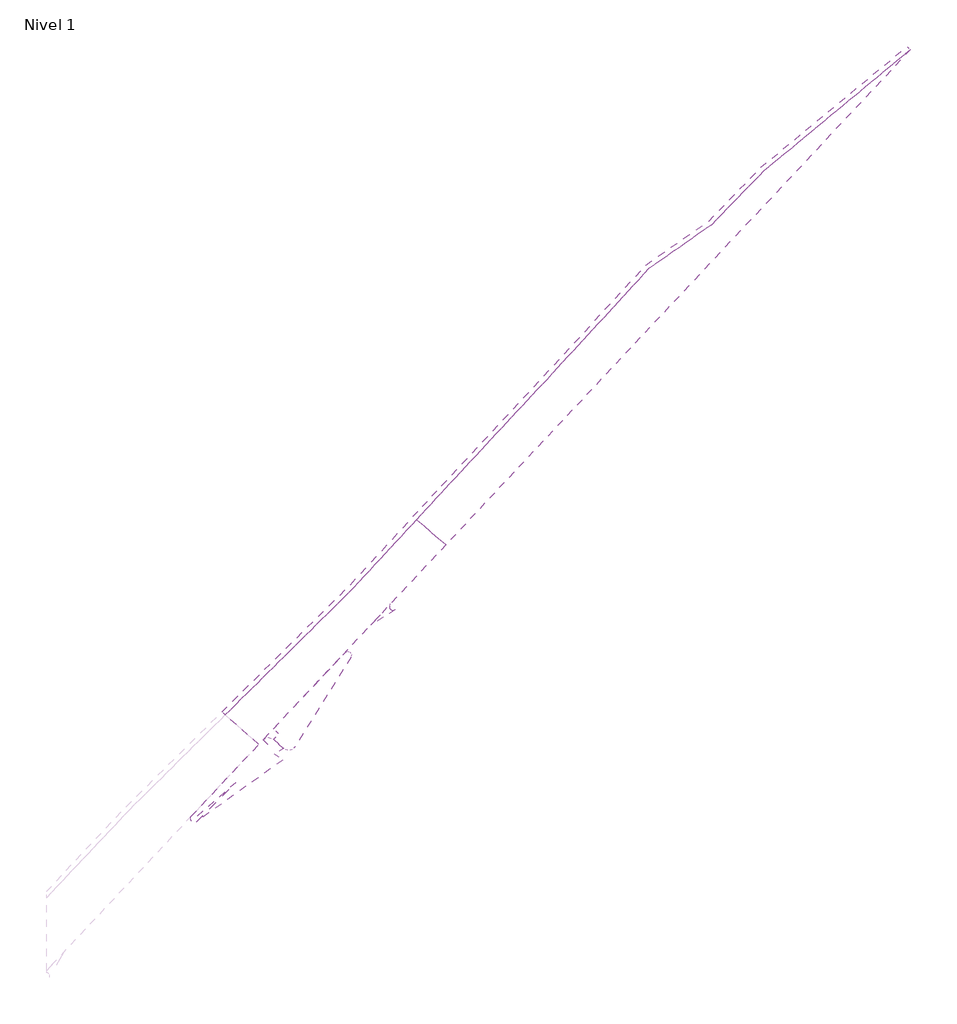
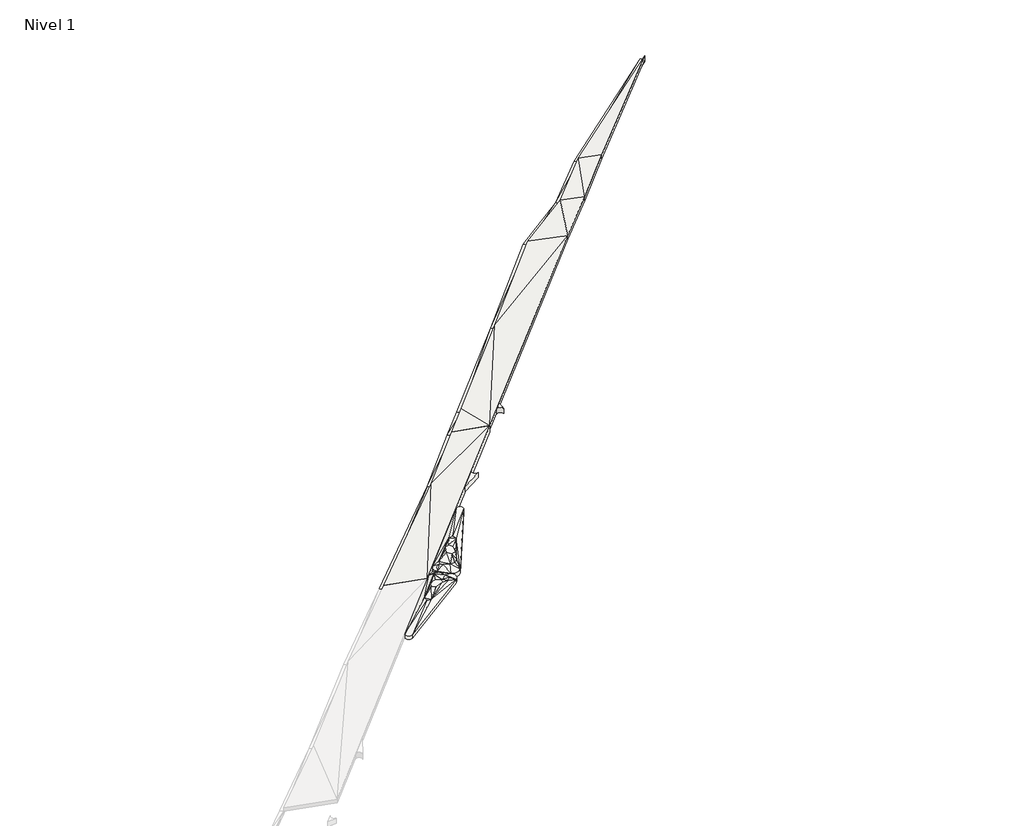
# One storey, part 43 of 45: 6 slabs.
"""IFC4 building model written with IfcOpenShell, lengths in millimetres."""

from ifc_helpers import new_model, si_unit, point, frame, frame_2d, origin, place, context, project, spatial, polyline, circle_curve, trimmed, segment, composite_curve, outline, extrude, faceted_brep, element, save
from ifc_brep_helpers import plane_surface, cylinder_surface, revolved_surface, spline_surface, advanced_brep

model = new_model("IFC4")

# Units and contexts
model_context = context("Model", 3, world=origin())
ifc_project = project(units=[si_unit("LENGTHUNIT", "METRE", prefix="MILLI")], contexts=[model_context])

# Site, building, storey
site = spatial("IfcSite", under=ifc_project)
building = spatial("IfcBuilding", under=site)
storey = spatial("IfcBuildingStorey", under=building, Name="Nivel 1", Elevation=0.0)

# Slabs
placement = place(None, origin())
element("IfcSlab", 1, ObjectType="Chilca", at=placement, inside=storey, context=model_context, shape_type="Brep", body=[
    faceted_brep([(236027.851456, 950864.0636019, 4590.5856967), (236027.851456, 950864.0636019, 4890.5856967), (237926.6891435, 952922.651975, 4882.5729338), (237926.6891435, 952922.651975, 4582.5729338), (244752.7531528, 960230.5537262, 4874.442598), (244752.7531528, 960230.5537262, 4574.442598), (251515.6988589, 967597.6969121, 4850.5252329), (251515.6988589, 967597.6969121, 4550.5252329), (255705.6082282, 970522.4880302, 4973.760169), (255705.6082282, 970522.4880302, 4673.760169), (259192.9134566, 974106.727718, 4968.7542616), (259192.9134566, 974106.727718, 4668.7542616), (268958.0332491, 982180.7629175, 5000.0), (268958.0332491, 982180.7629175, 4700.0), (260355.6429266, 973015.4157764, 5500.0000002), (260355.6429266, 973015.4157764, 5200.0000002), (256933.8467775, 969369.6907299, 5500.0000001), (256933.8467775, 969369.6907299, 5200.0000001), (253512.0506189, 965723.9656985, 5750.0), (253512.0506189, 965723.9656985, 5450.0), (237981.4109731, 949176.9713463, 5750.0), (237981.4109731, 949176.9713463, 5450.0)], [[[0, 1, 2, 3]], [[3, 2, 4, 5]], [[5, 4, 6, 7]], [[7, 6, 8, 9]], [[9, 8, 10, 11]], [[11, 10, 12, 13]], [[13, 12, 14, 15]], [[15, 14, 16, 17]], [[17, 16, 18, 19]], [[19, 18, 20, 21]], [[21, 20, 1, 0]], [[20, 18, 4]], [[21, 5, 19]], [[14, 12, 10]], [[16, 14, 10]], [[15, 11, 13]], [[17, 11, 15]], [[18, 16, 8]], [[16, 10, 8]], [[19, 9, 17]], [[17, 9, 11]], [[20, 4, 2]], [[18, 6, 4]], [[18, 8, 6]], [[21, 3, 5]], [[19, 5, 7]], [[19, 7, 9]], [[20, 2, 1]], [[21, 0, 3]]]),
])
element("IfcSlab", 2, ObjectType="Lippia", at=placement, inside=storey, context=model_context, shape_type="AdvancedBrep", body=[
    advanced_brep(
    [(226499.2646817, 936217.5484372, 5450.0), (226499.2646817, 936217.5484372, 5750.0), (227150.6454743, 935606.1962588, 5750.0), (227150.6454743, 935606.1962588, 5450.0), (227097.5478843, 934833.6531865, 5750.0), (227097.5478843, 934833.6531865, 5450.0), (221348.7986534, 930732.3710437, 5750.0), (221348.7986534, 930732.3710437, 5450.0), (221022.1841735, 931107.9003697, 5450.0), (221022.1841735, 931107.9003697, 5750.0), (225796.1759498, 936194.3112815, 5750.0), (225796.1759498, 936194.3112815, 5450.0), (226544.2708475, 935264.3344517, 6050.0), (226316.8446205, 935710.2652685, 6050.0), (226544.2708475, 935264.3344517, 5750.0), (226316.8446205, 935710.2652685, 5750.0), (225202.7877479, 934184.2306473, 6250.0), (225481.8985029, 934261.991924, 6250.0), (225761.009258, 934339.7532006, 6250.0), (225922.0678081, 934682.7788846, 6250.0), (225533.5750055, 934908.3880039, 6250.0), (225276.1440757, 934777.4245535, 6250.0), (225063.5377765, 934669.2648441, 6250.0), (224901.5272601, 934332.0266686, 6250.0), (225202.7877479, 934184.2306473, 5950.0), (224901.5272601, 934332.0266686, 5950.0), (225063.5377765, 934669.2648441, 5950.0), (225276.1440757, 934777.4245535, 5950.0), (225533.5750055, 934908.3880039, 5950.0), (225922.0678081, 934682.7788846, 5950.0), (225761.009258, 934339.7532006, 5950.0), (225481.8985029, 934261.991924, 5950.0), (225909.5963583, 935765.3249259, 6050.0), (226127.6360335, 935844.4195393, 6050.0), (225909.5963583, 935765.3249259, 5750.0), (226127.6360335, 935844.4195393, 5750.0), (226583.8035085, 934903.0382786, 6050.0), (226583.8035085, 934903.0382786, 5750.0), (226368.224206, 934610.423651, 6050.0), (224286.164711, 933280.7697764, 6050.0), (224286.164711, 933280.7697764, 5750.0), (226368.224206, 934610.423651, 5750.0), (223967.8886985, 933661.0207014, 6050.0), (223967.8886985, 933661.0207014, 5750.0), (223959.9064652, 933330.9989927, 6050.0), (223959.9064652, 933330.9989927, 5750.0)],
    [
        (0, 1),
        (1, 2),
        (2, 3),
        (3, 0),
        (2, 4, circle_curve(frame((226808.4692443, 935241.6158553, 5750.0), z_axis=(0.0, 0.0, -1.0), x_axis=(0.7868922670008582, -0.617090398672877, 0.0)), 499.9999992)),
        (4, 5),
        (5, 3, circle_curve(frame((226808.4692443, 935241.6158553, 5450.0), z_axis=(0.0, 0.0, 1.0), x_axis=(0.7868922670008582, -0.617090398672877, 0.0)), 499.9999992)),
        (4, 6),
        (6, 7),
        (7, 5),
        (8, 9),
        (9, 10),
        (10, 11),
        (11, 8),
        (10, 1, circle_curve(frame((226159.4586305, 935850.7626036, 5750.0), z_axis=(0.0, 0.0, -1.0), x_axis=(0.7868922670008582, -0.617090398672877, 0.0)), 500.0000001)),
        (0, 11, circle_curve(frame((226159.4586305, 935850.7626036, 5450.0), z_axis=(0.0, 0.0, 1.0), x_axis=(0.7868922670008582, -0.617090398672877, 0.0)), 500.0000001)),
        (2, 12),
        (12, 4),
        (1, 13),
        (13, 2),
        (5, 14),
        (14, 3),
        (3, 15),
        (15, 0),
        (16, 17),
        (17, 18),
        (18, 19),
        (19, 20),
        (20, 21),
        (21, 22),
        (22, 23),
        (23, 16),
        (24, 25),
        (25, 26),
        (26, 27),
        (27, 28),
        (28, 29),
        (29, 30),
        (30, 31),
        (31, 24),
        (20, 32),
        (32, 22),
        (10, 32),
        (32, 33),
        (33, 10),
        (19, 32),
        (26, 34),
        (34, 28),
        (11, 35),
        (35, 34),
        (34, 11),
        (34, 29),
        (32, 12),
        (12, 13),
        (13, 33),
        (19, 12),
        (12, 36),
        (36, 4),
        (35, 15),
        (15, 14),
        (14, 34),
        (14, 29),
        (5, 37),
        (37, 14),
        (4, 38),
        (38, 39),
        (39, 4),
        (19, 38),
        (38, 36),
        (36, 19),
        (5, 40),
        (40, 41),
        (41, 5),
        (29, 37),
        (37, 41),
        (41, 29),
        (22, 42),
        (42, 23),
        (23, 39),
        (39, 16),
        (39, 18),
        (25, 43),
        (43, 26),
        (24, 40),
        (40, 25),
        (30, 40),
        (42, 39),
        (40, 43),
        (1, 33),
        (35, 0),
        (10, 42),
        (42, 32),
        (42, 44),
        (44, 39),
        (18, 38),
        (34, 43),
        (43, 11),
        (40, 45),
        (45, 43),
        (41, 30),
        (6, 9, circle_curve(frame((221203.6030465, 930935.8910904, 5750.0), z_axis=(0.0, 0.0, -1.0), x_axis=(0.7868922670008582, -0.617090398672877, 0.0)), 249.9999994)),
        (8, 7, circle_curve(frame((221203.6030465, 930935.8910904, 5450.0), z_axis=(0.0, 0.0, 1.0), x_axis=(0.7868922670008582, -0.617090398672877, 0.0)), 249.9999994)),
        (9, 42),
        (9, 44),
        (6, 44),
        (6, 39),
        (43, 8),
        (45, 8),
        (45, 7),
        (40, 7),
    ],
    [
        plane_surface(frame((226499.2646817, 936217.5484372, 5450.0), z_axis=(0.6843477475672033, 0.7291557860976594, 0.0), x_axis=(0.0, 0.0, 1.0))),
        cylinder_surface(frame((226808.4692443, 935241.6158553, 5750.0), z_axis=(0.0, 0.0, -1.0000000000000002), x_axis=(0.7868922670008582, -0.617090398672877, 0.0)), 499.9999992),
        plane_surface(frame((227097.5478843, 934833.6531865, 5450.0), z_axis=(0.5807723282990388, -0.8140660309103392, 0.0), x_axis=(0.0, 0.0, 1.0))),
        plane_surface(frame((221022.1841735, 931107.9003697, 5450.0), z_axis=(-0.7291450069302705, 0.6843592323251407, 0.0), x_axis=(0.0, 0.0, 1.0))),
        cylinder_surface(frame((226159.4586305, 935850.7626036, 5750.0), z_axis=(0.0, 0.0, -1.0000000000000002), x_axis=(0.7868922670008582, -0.617090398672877, 0.0)), 500.0000001),
        spline_surface(2, 1, [[(227097.5478843, 934833.6531865, 5750.0), (226544.2708475, 935264.3344517, 6050.0)], [(227291.03299010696, 934970.754974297, 5750.0), (226544.2708475, 935264.3344517, 6050.0)], [(227307.29252321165, 935207.3326866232, 5750.0), (226544.2708475, 935264.3344517, 6050.0)], [(227323.552056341, 935443.9103989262, 5750.0), (226544.2708475, 935264.3344517, 6050.0)], [(227150.6431176, 935606.1937477, 5750.0), (226544.2708475, 935264.3344517, 6050.0)]], [3, 2, 3], [2, 2], [0.0, 1.0, 2.0], [0.0, 1.0], weights=[[1.0, 1.0], [0.9035324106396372, 0.9035324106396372], [1.0, 1.0], [0.9035324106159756, 0.9035324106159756], [1.0, 1.0]]),
        plane_surface(frame((226655.5849255, 935844.6699881, 5850.0), z_axis=(0.35484161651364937, 0.3780750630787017, 0.8550711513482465), x_axis=(-0.7291557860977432, 0.6843477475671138, 0.0))),
        spline_surface(1, 2, [[(227097.5478843, 934833.6531865, 5450.0), (227291.03299010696, 934970.754974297, 5450.0), (227307.29252321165, 935207.3326866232, 5450.0), (227323.552056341, 935443.9103989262, 5450.0), (227150.6431176, 935606.1937477, 5450.0)], [(226544.2708475, 935264.3344517, 5750.0), (226544.2708475, 935264.3344517, 5750.0), (226544.2708475, 935264.3344517, 5750.0), (226544.2708475, 935264.3344517, 5750.0), (226544.2708475, 935264.3344517, 5750.0)]], [2, 2], [3, 2, 3], [0.0, 1.0], [0.0, 1.0, 2.0], weights=[[1.0, 0.9035324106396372, 1.0, 0.9035324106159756, 1.0], [1.0, 0.9035324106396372, 1.0, 0.9035324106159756, 1.0]]),
        plane_surface(frame((226655.5849255, 935844.6699881, 5550.0), z_axis=(-0.35484161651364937, -0.3780750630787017, -0.8550711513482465), x_axis=(-0.7291557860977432, 0.6843477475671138, 0.0))),
        plane_surface(frame((225397.417476, 934519.4070415, 6250.0), z_axis=(0.0, 0.0, 1.0), x_axis=(0.9633124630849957, 0.26838237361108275, 0.0))),
        plane_surface(frame((225397.417476, 934519.4070415, 5950.0), z_axis=(0.0, 0.0, -1.0), x_axis=(0.9633124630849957, 0.26838237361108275, 0.0))),
        plane_surface(frame((225502.2363801, 935114.3259247, 6183.3333333), z_axis=(-0.1448456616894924, 0.2847187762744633, 0.9476048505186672), x_axis=(0.8912922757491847, 0.4534292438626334, 0.0))),
        plane_surface(frame((225944.4694472, 935934.6852489, 5950.0), z_axis=(-0.19152344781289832, 0.5279716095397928, 0.8273842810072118), x_axis=(0.2117536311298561, -0.8009089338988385, 0.5600939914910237))),
        plane_surface(frame((225788.4130573, 935118.8306048, 6183.3333333), z_axis=(0.105597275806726, 0.18183565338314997, 0.9776425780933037), x_axis=(-0.011328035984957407, 0.9832955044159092, -0.18166349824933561))),
        plane_surface(frame((225502.2363801, 935114.3259247, 5883.3333333), z_axis=(0.1448456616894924, -0.2847187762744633, -0.9476048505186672), x_axis=(0.8912922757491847, 0.4534292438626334, 0.0))),
        plane_surface(frame((225944.4694472, 935934.6852489, 5650.0), z_axis=(0.19152344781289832, -0.5279716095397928, -0.8273842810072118), x_axis=(0.2117536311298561, -0.8009089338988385, 0.5600939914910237))),
        plane_surface(frame((225788.4130573, 935118.8306048, 5883.3333333), z_axis=(-0.105597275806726, -0.18183565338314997, -0.9776425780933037), x_axis=(-0.011328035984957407, 0.9832955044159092, -0.18166349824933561))),
        plane_surface(frame((226224.586965, 935646.0860463, 6050.0), z_axis=(0.0, 0.0, 1.0), x_axis=(0.7849238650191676, -0.6195922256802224, 0.0))),
        plane_surface(frame((226125.3116713, 935237.4794207, 6116.6666667), z_axis=(0.14318939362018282, 0.18139797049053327, 0.9729293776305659), x_axis=(0.7112199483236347, 0.6647571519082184, -0.22861346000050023))),
        plane_surface(frame((226741.8740801, 935000.3419723, 5950.0), z_axis=(0.5090835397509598, 0.05570340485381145, 0.8589127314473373), x_axis=(-0.725487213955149, 0.564732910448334, 0.3933764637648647))),
        plane_surface(frame((226670.5869808, 935526.931993, 5950.0), z_axis=(0.35283343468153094, 0.17994624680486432, 0.918219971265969), x_axis=(-0.9345251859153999, 0.11664069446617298, 0.3362404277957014))),
        plane_surface(frame((226224.586965, 935646.0860463, 5750.0), z_axis=(0.0, 0.0, -1.0), x_axis=(0.7849238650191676, -0.6195922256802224, 0.0))),
        plane_surface(frame((226125.3116713, 935237.4794207, 5816.6666667), z_axis=(-0.14318939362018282, -0.18139797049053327, -0.9729293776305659), x_axis=(0.7112199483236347, 0.6647571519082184, -0.22861346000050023))),
        plane_surface(frame((226741.8740801, 935000.3419723, 5650.0), z_axis=(-0.5090835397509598, -0.05570340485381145, -0.8589127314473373), x_axis=(-0.725487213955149, 0.564732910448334, 0.3933764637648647))),
        plane_surface(frame((226670.5869808, 935526.931993, 5650.0), z_axis=(-0.35283343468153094, -0.17994624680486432, -0.918219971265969), x_axis=(-0.9345251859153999, 0.11664069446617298, 0.3362404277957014))),
        plane_surface(frame((225917.3122671, 934241.615538, 5950.0), z_axis=(0.4447964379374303, -0.6964915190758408, 0.5630769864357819), x_axis=(-0.8898530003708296, -0.27236394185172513, 0.36603213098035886))),
        plane_surface(frame((226291.3651742, 934732.0802714, 6116.6666667), z_axis=(0.3585321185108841, -0.26414299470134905, 0.8953676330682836), x_axis=(0.9026794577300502, -0.1463916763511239, -0.4046470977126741))),
        plane_surface(frame((225917.3122671, 934241.615538, 5650.0), z_axis=(-0.4447964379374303, 0.6964915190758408, -0.5630769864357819), x_axis=(-0.8898530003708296, -0.27236394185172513, 0.36603213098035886))),
        plane_surface(frame((226291.3651742, 934732.0802714, 5816.6666667), z_axis=(-0.3585321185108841, 0.26414299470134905, -0.8953676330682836), x_axis=(0.9026794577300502, -0.1463916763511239, -0.4046470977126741))),
        plane_surface(frame((224644.3179117, 934220.770738, 6183.3333333), z_axis=(-0.30754657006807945, 0.1477465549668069, 0.9399925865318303), x_axis=(0.433026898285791, 0.9013809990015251, 0.0))),
        plane_surface(frame((224796.826573, 933932.3423641, 6183.3333333), z_axis=(-0.07154805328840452, -0.14584020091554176, 0.9867175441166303), x_axis=(-0.8977801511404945, 0.44044386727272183, 0.0))),
        plane_surface(frame((225083.3205723, 933934.9178748, 6183.3333333), z_axis=(0.08187846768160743, -0.2938887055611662, 0.9523262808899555), x_axis=(-0.7037551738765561, -0.6936496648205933, -0.15355389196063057))),
        plane_surface(frame((224644.3179117, 934220.770738, 5883.3333333), z_axis=(0.30754657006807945, -0.1477465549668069, -0.9399925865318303), x_axis=(0.433026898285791, 0.9013809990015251, 0.0))),
        plane_surface(frame((224796.826573, 933932.3423641, 5883.3333333), z_axis=(0.07154805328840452, 0.14584020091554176, -0.9867175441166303), x_axis=(-0.8977801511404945, 0.44044386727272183, 0.0))),
        plane_surface(frame((225083.3205723, 933934.9178748, 5883.3333333), z_axis=(-0.08187846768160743, 0.2938887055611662, -0.9523262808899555), x_axis=(-0.7037551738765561, -0.6936496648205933, -0.15355389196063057))),
        plane_surface(frame((224385.1935565, 933757.9390488, 6116.6666667), z_axis=(-0.13176473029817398, -0.11028915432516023, 0.9851265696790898), x_axis=(-0.8000210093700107, -0.574975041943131, -0.17137702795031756))),
        plane_surface(frame((224385.1935565, 933757.9390488, 5816.6666667), z_axis=(0.13176473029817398, 0.11028915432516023, -0.9851265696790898), x_axis=(-0.8000210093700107, -0.574975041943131, -0.17137702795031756))),
        plane_surface(frame((226314.5817786, 935924.0777483, 5950.0), z_axis=(0.28931629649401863, 0.40804610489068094, 0.865906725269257), x_axis=(-0.6131675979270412, -0.6156429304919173, 0.4949841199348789))),
        spline_surface(2, 1, [[(226499.2646817, 936217.5484372, 5750.0), (226127.6360335, 935844.4195393, 6050.0)], [(226136.22025339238, 936553.8882908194, 5750.0), (226127.6360335, 935844.4195393, 6050.0)], [(225796.1759498, 936194.3112815, 5750.0), (226127.6360335, 935844.4195393, 6050.0)]], [3, 3], [2, 2], [0.0, 1.0], [0.0, 1.0], weights=[[1.0, 1.0], [0.7107223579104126, 0.7107223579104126], [1.0, 1.0]]),
        plane_surface(frame((226314.5817786, 935924.0777483, 5650.0), z_axis=(-0.28931629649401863, -0.40804610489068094, -0.865906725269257), x_axis=(-0.6131675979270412, -0.6156429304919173, 0.4949841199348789))),
        spline_surface(1, 2, [[(226499.2646817, 936217.5484372, 5450.0), (226136.22025339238, 936553.8882908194, 5450.0), (225796.1759498, 936194.3112815, 5450.0)], [(226127.6360335, 935844.4195393, 5750.0), (226127.6360335, 935844.4195393, 5750.0), (226127.6360335, 935844.4195393, 5750.0)]], [2, 2], [3, 3], [0.0, 1.0], [0.0, 1.0], weights=[[1.0, 0.7107223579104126, 1.0], [1.0, 0.7107223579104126, 1.0]]),
        plane_surface(frame((226350.0473881, 934950.0505383, 6116.6666667), z_axis=(0.27982285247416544, 0.0306179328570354, 0.9595632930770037), x_axis=(0.912059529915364, 0.3035799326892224, -0.2756567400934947))),
        plane_surface(frame((226350.0473881, 934950.0505383, 5816.6666667), z_axis=(-0.27982285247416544, -0.0306179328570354, -0.9595632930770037), x_axis=(0.912059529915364, 0.3035799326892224, -0.2756567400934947))),
        plane_surface(frame((225224.5536689, 935206.8856363, 5950.0), z_axis=(-0.45965240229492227, 0.4241357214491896, 0.7802746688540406), x_axis=(-0.5825349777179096, -0.8071654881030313, 0.09558699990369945))),
        plane_surface(frame((224071.3199582, 933424.2631568, 6050.0), z_axis=(0.0, 0.0, 1.0), x_axis=(-0.6418493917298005, 0.766830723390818, 0.0))),
        plane_surface(frame((226017.1004241, 934544.3185787, 6183.3333333), z_axis=(0.37840949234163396, -0.177672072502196, 0.9084266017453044), x_axis=(-0.4250076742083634, -0.9051897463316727, 0.0))),
        plane_surface(frame((226683.1918663, 934782.3717054, 5950.0), z_axis=(0.44332933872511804, -0.3266160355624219, 0.8347341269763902), x_axis=(-0.8577339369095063, 0.1158435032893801, 0.5008720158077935))),
        plane_surface(frame((225224.5536689, 935206.8856363, 5650.0), z_axis=(0.45965240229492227, -0.4241357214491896, -0.7802746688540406), x_axis=(-0.5825349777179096, -0.8071654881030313, 0.09558699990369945))),
        plane_surface(frame((224071.3199582, 933424.2631568, 5750.0), z_axis=(0.0, 0.0, -1.0), x_axis=(-0.6418493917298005, 0.766830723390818, 0.0))),
        plane_surface(frame((226017.1004241, 934544.3185787, 5883.3333333), z_axis=(-0.37840949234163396, 0.177672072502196, -0.9084266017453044), x_axis=(-0.4250076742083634, -0.9051897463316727, 0.0))),
        plane_surface(frame((226683.1918663, 934782.3717054, 5650.0), z_axis=(-0.44332933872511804, 0.3266160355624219, -0.8347341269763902), x_axis=(-0.8577339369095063, 0.1158435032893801, 0.5008720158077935))),
        plane_surface(frame((224980.3409444, 934698.5368238, 6116.6666667), z_axis=(-0.6281210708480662, 0.5795870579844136, 0.5191750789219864), x_axis=(0.6047654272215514, 0.783467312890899, -0.14296065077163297))),
        plane_surface(frame((224980.3409444, 934698.5368238, 5816.6666667), z_axis=(0.6281210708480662, -0.5795870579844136, -0.5191750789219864), x_axis=(0.6047654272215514, 0.783467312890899, -0.14296065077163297))),
        plane_surface(frame((225471.7993917, 934076.9822093, 6116.6666667), z_axis=(0.4826552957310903, -0.7557734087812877, 0.44254990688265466), x_axis=(-0.8074086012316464, -0.5797440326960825, -0.10949067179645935))),
        plane_surface(frame((225471.7993917, 934076.9822093, 5816.6666667), z_axis=(-0.4826552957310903, 0.7557734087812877, -0.44254990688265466), x_axis=(-0.8074086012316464, -0.5797440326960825, -0.10949067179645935))),
        cylinder_surface(frame((221203.6030465, 930935.8910904, 5750.0), z_axis=(0.0, 0.0, -1.0000000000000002), x_axis=(0.7868922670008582, -0.617090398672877, 0.0)), 249.9999994),
        plane_surface(frame((223595.4162739, 933654.4107842, 5850.0), z_axis=(-0.4370713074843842, 0.41022537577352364, 0.800427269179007), x_axis=(-0.6843592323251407, -0.7291450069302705, 0.0))),
        plane_surface(frame((222983.3264457, 932699.9733546, 5950.0), z_axis=(-0.10346529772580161, 0.002502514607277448, 0.9946299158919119), x_axis=(-0.7534387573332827, -0.6530253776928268, -0.0767326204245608))),
        spline_surface(2, 1, [[(221022.1841735, 931107.9003697, 5750.0), (223959.9064652, 933330.9989927, 6050.0)], [(220865.96959503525, 930943.140230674, 5750.0), (223959.9064652, 933330.9989927, 6050.0)], [(221014.96852934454, 930771.8270218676, 5750.0), (223959.9064652, 933330.9989927, 6050.0)], [(221163.9674636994, 930600.5138130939, 5750.0), (223959.9064652, 933330.9989927, 6050.0)], [(221348.7961282, 930732.3745832, 5750.0), (223959.9064652, 933330.9989927, 6050.0)]], [3, 2, 3], [2, 2], [0.0, 1.0, 2.0], [0.0, 1.0], weights=[[1.0, 1.0], [0.7402773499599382, 0.7402773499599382], [1.0, 1.0], [0.7402773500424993, 0.7402773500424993], [1.0, 1.0]]),
        plane_surface(frame((223198.2899432, 932448.0466043, 5950.0), z_axis=(-0.015314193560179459, -0.09947162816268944, 0.9949225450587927), x_axis=(-0.9883554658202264, 0.1521626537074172, 0.0))),
        plane_surface(frame((224244.1704162, 932948.9313355, 5850.0), z_axis=(0.3665935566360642, -0.5138525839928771, 0.775606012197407), x_axis=(-0.8715499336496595, -0.48140553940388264, 0.09300225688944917))),
        plane_surface(frame((223595.4162739, 933654.4107842, 5550.0), z_axis=(0.4370713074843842, -0.41022537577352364, -0.800427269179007), x_axis=(-0.6843592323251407, -0.7291450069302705, 0.0))),
        plane_surface(frame((222983.3264457, 932699.9733546, 5650.0), z_axis=(0.10346529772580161, -0.002502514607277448, -0.9946299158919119), x_axis=(-0.7534387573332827, -0.6530253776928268, -0.0767326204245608))),
        spline_surface(1, 2, [[(221022.1841735, 931107.9003697, 5450.0), (220865.96959503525, 930943.140230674, 5450.0), (221014.96852934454, 930771.8270218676, 5450.0), (221163.9674636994, 930600.5138130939, 5450.0), (221348.7961282, 930732.3745832, 5450.0)], [(223959.9064652, 933330.9989927, 5750.0), (223959.9064652, 933330.9989927, 5750.0), (223959.9064652, 933330.9989927, 5750.0), (223959.9064652, 933330.9989927, 5750.0), (223959.9064652, 933330.9989927, 5750.0)]], [2, 2], [3, 2, 3], [0.0, 1.0], [0.0, 1.0, 2.0], weights=[[1.0, 0.7402773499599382, 1.0, 0.7402773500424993, 1.0], [1.0, 0.7402773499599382, 1.0, 0.7402773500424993, 1.0]]),
        plane_surface(frame((223198.2899432, 932448.0466043, 5650.0), z_axis=(0.015314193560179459, 0.09947162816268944, -0.9949225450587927), x_axis=(-0.9883554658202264, 0.1521626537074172, 0.0))),
        plane_surface(frame((224244.1704162, 932948.9313355, 5550.0), z_axis=(-0.3665935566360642, 0.5138525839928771, -0.775606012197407), x_axis=(-0.8715499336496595, -0.48140553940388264, 0.09300225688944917))),
    ],
    [
        (0, [[1, 2, 3, 4]]),
        (1, [[-3, 5, 6, 7]]),
        (2, [[-6, 8, 9, 10]]),
        (3, [[11, 12, 13, 14]]),
        (4, [[-13, 15, -1, 16]]),
        (5, [[-5, 17, 18]]),
        (6, [[-2, 19, 20]]),
        (7, [[21, 22, -7]]),
        (8, [[23, 24, -4]]),
        (9, [[25, 26, 27, 28, 29, 30, 31, 32]]),
        (10, [[33, 34, 35, 36, 37, 38, 39, 40]]),
        (11, [[-29, 41, 42, -30]]),
        (12, [[43, 44, 45]]),
        (13, [[46, -41, -28]]),
        (14, [[-35, 47, 48, -36]]),
        (15, [[49, 50, 51]]),
        (16, [[-37, -48, 52]]),
        (17, [[53, 54, 55, -44]]),
        (18, [[56, -53, -46]]),
        (19, [[-18, 57, 58]]),
        (20, [[-20, -54, -17]]),
        (21, [[-50, 59, 60, 61]]),
        (22, [[-52, -61, 62]]),
        (23, [[63, 64, -21]]),
        (24, [[-22, -60, -23]]),
        (25, [[65, 66, 67]]),
        (26, [[68, 69, 70]]),
        (27, [[71, 72, 73]]),
        (28, [[74, 75, 76]]),
        (29, [[-31, 77, 78]]),
        (30, [[-32, 79, 80]]),
        (31, [[-80, 81, -26, -25]]),
        (32, [[82, 83, -34]]),
        (33, [[84, 85, -33]]),
        (34, [[-40, -39, 86, -84]]),
        (35, [[-78, 87, -79]]),
        (36, [[-85, 88, -82]]),
        (37, [[89, -55, -19]]),
        (38, [[-45, -89, -15]]),
        (39, [[-24, -59, 90]]),
        (40, [[-16, -90, -49]]),
        (41, [[-70, -57, -56]]),
        (42, [[-62, -64, -74]]),
        (43, [[91, 92, -43]]),
        (44, [[-87, 93, 94]]),
        (45, [[-27, 95, -68]]),
        (46, [[-58, -69, -65]]),
        (47, [[-51, 96, 97]]),
        (48, [[98, 99, -88]]),
        (49, [[-76, 100, -38]]),
        (50, [[-73, -75, -63]]),
        (51, [[-42, -92, -77]]),
        (52, [[-83, -96, -47]]),
        (53, [[-81, -66, -95]]),
        (54, [[-100, -72, -86]]),
        (55, [[-9, 101, -11, 102]]),
        (56, [[-12, 103, -91]]),
        (57, [[-103, 104, -93]]),
        (58, [[-104, -101, 105]]),
        (59, [[-94, -105, 106]]),
        (60, [[-67, -106, -8]]),
        (61, [[-97, 107, -14]]),
        (62, [[-99, 108, -107]]),
        (63, [[109, -102, -108]]),
        (64, [[110, -109, -98]]),
        (65, [[-10, -110, -71]]),
    ],
),
])
element("IfcSlab", 3, ObjectType="Lippia", at=placement, inside=storey, context=model_context, shape_type="AdvancedBrep", body=[
    advanced_brep(
    [(227167.6368579, 935590.2275249, 5450.0), (227167.6368579, 935590.2275249, 5750.0), (226499.7198912, 936217.9471328, 5750.0), (226499.7198912, 936217.9471328, 5450.0), (227932.27228, 935733.6151084, 5450.0), (227932.27228, 935733.6151084, 5750.0), (231643.7956828, 941691.7261323, 5450.0), (231643.7956828, 941691.7261323, 5750.0), (226478.8533642, 936921.1102137, 5450.0), (226478.8533642, 936921.1102137, 5750.0), (231272.1261457, 942016.4273541, 5750.0), (231272.1261457, 942016.4273541, 5450.0), (228327.5630327, 937072.4209308, 6250.0), (228447.7998142, 937639.2909647, 6250.0), (228271.2433603, 937921.653851, 6250.0), (227964.6191377, 937782.9141181, 6250.0), (227860.3684716, 937528.9071848, 6250.0), (227732.5060876, 937244.796013, 6250.0), (227995.3039893, 936890.1837104, 6250.0), (227449.0145402, 936221.4369263, 6050.0), (226985.4008877, 936422.2200744, 6050.0), (228327.5630327, 937072.4209308, 5950.0), (227995.3039893, 936890.1837104, 5950.0), (227732.5060876, 937244.796013, 5950.0), (227860.3684716, 937528.9071848, 5950.0), (227964.6191377, 937782.9141181, 5950.0), (228271.2433603, 937921.653851, 5950.0), (228447.7998142, 937639.2909647, 5950.0), (227449.0145402, 936221.4369263, 5750.0), (226985.4008877, 936422.2200744, 5750.0), (229282.305938, 938601.7467268, 6050.0), (228882.7874489, 938895.4726611, 6050.0), (229282.305938, 938601.7467268, 5750.0), (228882.7874489, 938895.4726611, 5750.0), (226903.99952, 936824.3445011, 6050.0), (226844.4914411, 936580.0694582, 6050.0), (226903.99952, 936824.3445011, 5750.0), (226844.4914411, 936580.0694582, 5750.0), (227809.4998353, 936207.152243, 6050.0), (227809.4998353, 936207.152243, 5750.0), (228085.7609454, 936439.1727144, 6050.0), (228085.7609454, 936439.1727144, 5750.0), (229211.6471621, 938924.1978931, 6050.0), (229211.6471621, 938924.1978931, 5750.0)],
    [
        (0, 1),
        (1, 2),
        (2, 3),
        (3, 0),
        (4, 5),
        (5, 1, circle_curve(frame((227492.0522674, 935970.6938737, 5750.0), z_axis=(0.0, 0.0, -1.0), x_axis=(0.9660919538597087, 0.25819825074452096, 0.0)), 500.0000005)),
        (0, 4, circle_curve(frame((227492.0522674, 935970.6938737, 5450.0), z_axis=(0.0, 0.0, 1.0), x_axis=(0.9660919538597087, 0.25819825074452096, 0.0)), 500.0000005)),
        (6, 7),
        (7, 5),
        (4, 6),
        (8, 9),
        (9, 10),
        (10, 11),
        (11, 8),
        (2, 9, circle_curve(frame((226844.4914411, 936580.0694582, 5750.0), z_axis=(0.0, 0.0, -1.0), x_axis=(0.9660919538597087, 0.25819825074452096, 0.0)), 500.0000001)),
        (8, 3, circle_curve(frame((226844.4914411, 936580.0694582, 5450.0), z_axis=(0.0, 0.0, 1.0), x_axis=(0.9660919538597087, 0.25819825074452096, 0.0)), 500.0000001)),
        (12, 13),
        (13, 14),
        (14, 15),
        (15, 16),
        (16, 17),
        (17, 18),
        (18, 12),
        (5, 19),
        (19, 1),
        (1, 20),
        (20, 2),
        (21, 22),
        (22, 23),
        (23, 24),
        (24, 25),
        (25, 26),
        (26, 27),
        (27, 21),
        (0, 28),
        (28, 4),
        (3, 29),
        (29, 0),
        (13, 30),
        (30, 14),
        (14, 31),
        (31, 15),
        (26, 32),
        (32, 27),
        (25, 33),
        (33, 26),
        (30, 31),
        (12, 30),
        (33, 32),
        (32, 21),
        (34, 9),
        (9, 35),
        (35, 34),
        (16, 34),
        (34, 17),
        (36, 37),
        (37, 8),
        (8, 36),
        (23, 36),
        (36, 24),
        (2, 35),
        (35, 20),
        (20, 19),
        (19, 34),
        (37, 3),
        (36, 28),
        (28, 29),
        (29, 37),
        (19, 17),
        (19, 18),
        (5, 38),
        (38, 19),
        (23, 28),
        (22, 28),
        (28, 39),
        (39, 4),
        (40, 18),
        (18, 38),
        (38, 40),
        (40, 5),
        (5, 30),
        (30, 40),
        (41, 39),
        (39, 22),
        (22, 41),
        (41, 32),
        (32, 4),
        (4, 41),
        (34, 15),
        (31, 34),
        (31, 9),
        (36, 33),
        (25, 36),
        (8, 33),
        (40, 12),
        (21, 41),
        (42, 31),
        (30, 42),
        (43, 32),
        (33, 43),
        (10, 7, circle_curve(frame((231431.5807399, 941823.8806536, 5750.0), z_axis=(0.0, 0.0, -1.0), x_axis=(0.9660919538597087, 0.25819825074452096, 0.0)), 249.999999)),
        (6, 11, circle_curve(frame((231431.5807399, 941823.8806536, 5450.0), z_axis=(0.0, 0.0, 1.0), x_axis=(0.9660919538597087, 0.25819825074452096, 0.0)), 249.999999)),
        (31, 10),
        (42, 10),
        (42, 7),
        (30, 7),
        (11, 33),
        (11, 43),
        (6, 43),
        (6, 32),
    ],
    [
        plane_surface(frame((227167.6368579, 935590.2275249, 5450.0), z_axis=(-0.6848391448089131, -0.728694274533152, 0.0), x_axis=(0.0, 0.0, 1.0))),
        cylinder_surface(frame((227492.0522674, 935970.6938737, 5750.0), z_axis=(0.0, 0.0, -1.0), x_axis=(0.9660919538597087, 0.25819825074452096, 0.0)), 500.0000005),
        plane_surface(frame((231643.7956828, 941691.7261323, 5450.0), z_axis=(0.8487846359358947, -0.5287387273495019, 0.0), x_axis=(0.0, 0.0, 1.0))),
        plane_surface(frame((226478.8533642, 936921.1102137, 5450.0), z_axis=(-0.7283654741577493, 0.6851888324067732, 0.0), x_axis=(0.0, 0.0, 1.0))),
        cylinder_surface(frame((226844.4914411, 936580.0694582, 5750.0), z_axis=(0.0, 0.0, -1.0), x_axis=(0.9660919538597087, 0.25819825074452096, 0.0)), 500.0000001),
        plane_surface(frame((228085.6291276, 937440.0238247, 6250.0), z_axis=(0.0, 0.0, 1.0), x_axis=(0.20749037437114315, 0.9782370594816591, 0.0))),
        spline_surface(2, 1, [[(227167.6368579, 935590.2275249, 5750.0), (227449.0145402, 936221.4369263, 6050.0)], [(227349.4137153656, 935435.2303383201, 5750.0), (227449.0145402, 936221.4369263, 6050.0)], [(227584.20798509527, 935479.2599267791, 5750.0), (227449.0145402, 936221.4369263, 6050.0)], [(227819.0022548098, 935523.2895152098, 5750.0), (227449.0145402, 936221.4369263, 6050.0)], [(227932.27228, 935733.6151084, 5750.0), (227449.0145402, 936221.4369263, 6050.0)]], [3, 2, 3], [2, 2], [0.0, 1.0, 2.0], [0.0, 1.0], weights=[[1.0, 1.0], [0.9023052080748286, 0.9023052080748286], [1.0, 1.0], [0.9023052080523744, 0.9023052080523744], [1.0, 1.0]]),
        plane_surface(frame((226884.2525456, 936076.798244, 5850.0), z_axis=(-0.3621683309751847, -0.3853605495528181, 0.8487233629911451), x_axis=(0.728694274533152, -0.6848391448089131, 0.0))),
        plane_surface(frame((228085.6291276, 937440.0238247, 5950.0), z_axis=(0.0, 0.0, -1.0), x_axis=(0.20749037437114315, 0.9782370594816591, 0.0))),
        spline_surface(1, 2, [[(227167.6368579, 935590.2275249, 5450.0), (227349.4137153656, 935435.2303383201, 5450.0), (227584.20798509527, 935479.2599267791, 5450.0), (227819.0022548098, 935523.2895152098, 5450.0), (227932.27228, 935733.6151084, 5450.0)], [(227449.0145402, 936221.4369263, 5750.0), (227449.0145402, 936221.4369263, 5750.0), (227449.0145402, 936221.4369263, 5750.0), (227449.0145402, 936221.4369263, 5750.0), (227449.0145402, 936221.4369263, 5750.0)]], [2, 2], [3, 2, 3], [0.0, 1.0], [0.0, 1.0, 2.0], weights=[[1.0, 0.9023052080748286, 1.0, 0.9023052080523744, 1.0], [1.0, 0.9023052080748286, 1.0, 0.9023052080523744, 1.0]]),
        plane_surface(frame((226884.2525456, 936076.798244, 5550.0), z_axis=(0.3621683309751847, 0.3853605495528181, -0.8487233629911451), x_axis=(0.728694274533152, -0.6848391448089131, 0.0))),
        plane_surface(frame((228667.1163708, 938054.2305142, 6183.3333333), z_axis=(0.1374048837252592, 0.08591681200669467, 0.9867817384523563), x_axis=(0.5301709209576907, -0.8478907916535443, 0.0))),
        plane_surface(frame((228372.8833156, 938200.0135434, 6183.3333333), z_axis=(-0.12382028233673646, 0.2736512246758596, 0.953825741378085), x_axis=(0.9110758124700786, 0.41223884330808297, 0.0))),
        plane_surface(frame((228667.1163708, 938054.2305142, 5883.3333333), z_axis=(-0.1374048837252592, -0.08591681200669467, -0.9867817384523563), x_axis=(0.5301709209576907, -0.8478907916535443, 0.0))),
        plane_surface(frame((228372.8833156, 938200.0135434, 5883.3333333), z_axis=(0.12382028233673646, -0.2736512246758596, -0.953825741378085), x_axis=(0.9110758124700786, 0.41223884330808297, 0.0))),
        plane_surface(frame((228812.1122491, 938472.9577463, 6116.6666667), z_axis=(0.10176417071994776, 0.13841701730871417, 0.9851318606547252), x_axis=(-0.5239500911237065, -0.8343347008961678, 0.1713531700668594))),
        plane_surface(frame((228685.889595, 937771.1528741, 6183.3333333), z_axis=(0.3018005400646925, -0.06401383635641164, 0.9512195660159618), x_axis=(-0.6471720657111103, -0.7463989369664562, 0.1551030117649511))),
        plane_surface(frame((228812.1122491, 938472.9577463, 5816.6666667), z_axis=(-0.10176417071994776, -0.13841701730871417, -0.9851318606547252), x_axis=(-0.5239500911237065, -0.8343347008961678, 0.1713531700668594))),
        plane_surface(frame((228685.889595, 937771.1528741, 5883.3333333), z_axis=(-0.3018005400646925, 0.06401383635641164, -0.9512195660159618), x_axis=(-0.6471720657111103, -0.7463989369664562, 0.1551030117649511))),
        plane_surface(frame((226742.4481084, 936775.1747243, 5950.0), z_axis=(-0.5507691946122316, 0.13417341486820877, 0.8238026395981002), x_axis=(-0.8032888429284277, 0.18283316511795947, -0.5668324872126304))),
        plane_surface(frame((227498.9580264, 937199.349233, 6183.3333333), z_axis=(-0.29591918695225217, 0.13317650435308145, 0.9458836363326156), x_axis=(0.41039765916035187, 0.9119066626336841, 0.0))),
        plane_surface(frame((226742.4481084, 936775.1747243, 5650.0), z_axis=(0.5507691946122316, -0.13417341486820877, -0.8238026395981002), x_axis=(-0.8032888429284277, 0.18283316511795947, -0.5668324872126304))),
        plane_surface(frame((227498.9580264, 937199.349233, 5883.3333333), z_axis=(0.29591918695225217, -0.13317650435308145, -0.9458836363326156), x_axis=(0.41039765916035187, 0.9119066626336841, 0.0))),
        revolved_surface(polyline([(226844.4914411, 936580.0694582, 6050.0), (226478.85336419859, 936921.1102137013, 5749.999999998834)]), (226844.4914411, 936580.0694582, 6050.0), (0.0, -1.3860699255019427e-12, -1.0)),
        plane_surface(frame((227045.7265972, 936512.01774, 6050.0), z_axis=(0.0, 0.0, 1.0), x_axis=(0.6659434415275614, -0.7460022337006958, 0.0))),
        plane_surface(frame((226776.5374067, 936406.7455551, 5950.0), z_axis=(-0.38474626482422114, -0.34345641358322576, 0.8567426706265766), x_axis=(-0.5912783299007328, -0.6210346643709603, -0.5144957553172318))),
        revolved_surface(polyline([(226499.71989119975, 936217.9471327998, 5449.999999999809), (226844.4914411, 936580.0694582, 5750.0)]), (226844.4914411, 936580.0694582, 5750.0), (0.0, -1.3860699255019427e-12, -1.0)),
        plane_surface(frame((227045.7265972, 936512.01774, 5750.0), z_axis=(0.0, 0.0, -1.0), x_axis=(0.6659434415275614, -0.7460022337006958, 0.0))),
        plane_surface(frame((226776.5374067, 936406.7455551, 5650.0), z_axis=(0.38474626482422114, 0.34345641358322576, -0.8567426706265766), x_axis=(-0.5912783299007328, -0.6210346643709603, -0.5144957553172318))),
        plane_surface(frame((227361.8400492, 936763.5258135, 6116.6666667), z_axis=(-0.16151286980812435, -0.14600403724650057, 0.9760104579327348), x_axis=(0.262353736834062, 0.9470549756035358, 0.18508751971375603))),
        plane_surface(frame((227725.6082057, 936785.4722166, 6183.3333333), z_axis=(-0.18670414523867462, -0.1383636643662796, 0.9726238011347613), x_axis=(0.6163210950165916, 0.7544768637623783, 0.2256390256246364))),
        plane_surface(frame((227730.2622185, 936054.0680926, 5950.0), z_axis=(-0.02135832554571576, -0.538994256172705, 0.8420386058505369), x_axis=(0.6449124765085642, -0.6510032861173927, -0.400353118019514))),
        plane_surface(frame((227200.6840952, 936077.9615086, 5950.0), z_axis=(-0.15825751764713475, -0.365420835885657, 0.9172906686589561), x_axis=(0.20181015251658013, -0.9213578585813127, -0.3322233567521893))),
        plane_surface(frame((227361.8400492, 936763.5258135, 5816.6666667), z_axis=(0.16151286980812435, 0.14600403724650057, -0.9760104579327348), x_axis=(0.262353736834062, 0.9470549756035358, 0.18508751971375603))),
        plane_surface(frame((227725.6082057, 936785.4722166, 5883.3333333), z_axis=(0.18670414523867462, 0.1383636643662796, -0.9726238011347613), x_axis=(0.6163210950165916, 0.7544768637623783, 0.2256390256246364))),
        plane_surface(frame((227730.2622185, 936054.0680926, 5650.0), z_axis=(0.02135832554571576, 0.538994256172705, -0.8420386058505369), x_axis=(0.6449124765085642, -0.6510032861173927, -0.400353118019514))),
        plane_surface(frame((227200.6840952, 936077.9615086, 5650.0), z_axis=(0.15825751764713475, 0.365420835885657, -0.9172906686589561), x_axis=(0.20181015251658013, -0.9213578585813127, -0.3322233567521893))),
        plane_surface(frame((227963.52159, 936512.1695559, 6116.6666667), z_axis=(0.2855918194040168, -0.3400472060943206, 0.8959939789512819), x_axis=(-0.18034012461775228, 0.8991611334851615, 0.39873135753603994))),
        plane_surface(frame((228433.4463878, 936924.8448499, 5950.0), z_axis=(0.7198756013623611, -0.3983047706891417, 0.568447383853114), x_axis=(-0.19630173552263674, -0.9023609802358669, -0.3836799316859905))),
        plane_surface(frame((227963.52159, 936512.1695559, 5816.6666667), z_axis=(-0.2855918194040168, 0.3400472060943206, -0.8959939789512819), x_axis=(-0.18034012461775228, 0.8991611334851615, 0.39873135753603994))),
        plane_surface(frame((228433.4463878, 936924.8448499, 5650.0), z_axis=(-0.7198756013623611, 0.3983047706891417, -0.568447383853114), x_axis=(-0.19630173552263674, -0.9023609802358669, -0.3836799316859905))),
        plane_surface(frame((227751.2727882, 936439.5909599, 6116.6666667), z_axis=(-0.011025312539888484, -0.27823249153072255, 0.9604504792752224), x_axis=(0.25260075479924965, 0.9285813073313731, 0.2719000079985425))),
        plane_surface(frame((227751.2727882, 936439.5909599, 5816.6666667), z_axis=(0.011025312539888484, 0.27823249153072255, -0.9604504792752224), x_axis=(0.25260075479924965, 0.9285813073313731, 0.2719000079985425))),
        plane_surface(frame((227917.1353689, 937834.2437601, 6116.6666667), z_axis=(-0.6405910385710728, 0.6120306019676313, 0.4637474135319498), x_axis=(0.7347418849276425, 0.6640469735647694, 0.13854955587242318))),
        plane_surface(frame((227576.3290431, 937378.7219347, 6183.3333333), z_axis=(-0.28516408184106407, 0.11703832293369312, 0.9513061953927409), x_axis=(0.7939337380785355, 0.5848956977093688, 0.16603084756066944))),
        plane_surface(frame((227421.880111, 937546.975792, 5950.0), z_axis=(-0.45223567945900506, 0.43207297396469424, 0.780253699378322), x_axis=(-0.7692045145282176, -0.6317513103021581, -0.09599321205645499))),
        plane_surface(frame((227917.1353689, 937834.2437601, 5816.6666667), z_axis=(0.6405910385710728, -0.6120306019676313, -0.4637474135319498), x_axis=(0.7347418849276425, 0.6640469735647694, 0.13854955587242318))),
        plane_surface(frame((227576.3290431, 937378.7219347, 5883.3333333), z_axis=(0.28516408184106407, -0.11703832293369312, -0.9513061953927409), x_axis=(0.7939337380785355, 0.5848956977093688, 0.16603084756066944))),
        plane_surface(frame((227421.880111, 937546.975792, 5650.0), z_axis=(0.45223567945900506, -0.43207297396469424, -0.780253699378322), x_axis=(-0.7692045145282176, -0.6317513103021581, -0.09599321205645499))),
        plane_surface(frame((228136.2093225, 936800.5924519, 6183.3333333), z_axis=(0.19939485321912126, -0.36354122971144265, 0.9099887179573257), x_axis=(-0.8767783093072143, -0.4808947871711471, 0.0))),
        plane_surface(frame((228565.209972, 937371.1134574, 6116.6666667), z_axis=(0.7903633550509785, -0.43730540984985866, 0.42905680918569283), x_axis=(-0.5263370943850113, -0.8430970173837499, 0.11025734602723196))),
        plane_surface(frame((228136.2093225, 936800.5924519, 5883.3333333), z_axis=(-0.19939485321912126, 0.36354122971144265, -0.9099887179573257), x_axis=(-0.8767783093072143, -0.4808947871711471, 0.0))),
        plane_surface(frame((228565.209972, 937371.1134574, 5816.6666667), z_axis=(-0.7903633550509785, 0.43730540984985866, -0.42905680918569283), x_axis=(-0.5263370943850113, -0.8430970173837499, 0.11025734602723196))),
        plane_surface(frame((229125.580183, 938807.1390937, 6050.0), z_axis=(0.0, 0.0, 1.0000000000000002), x_axis=(-0.9962068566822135, -0.08701665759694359, 0.0))),
        plane_surface(frame((227942.5110202, 936126.6466886, 5950.0), z_axis=(0.36141550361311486, -0.4303286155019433, 0.8271614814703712), x_axis=(0.2139430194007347, -0.8251848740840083, -0.5227794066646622))),
        plane_surface(frame((229125.580183, 938807.1390937, 5750.0), z_axis=(0.0, 0.0, -1.0000000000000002), x_axis=(-0.9962068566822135, -0.08701665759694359, 0.0))),
        plane_surface(frame((227942.5110202, 936126.6466886, 5650.0), z_axis=(-0.36141550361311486, 0.4303286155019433, -0.8271614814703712), x_axis=(0.2139430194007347, -0.8251848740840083, -0.5227794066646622))),
        cylinder_surface(frame((231431.5807399, 941823.8806536, 5750.0), z_axis=(0.0, 0.0, -1.0), x_axis=(0.9660919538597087, 0.25819825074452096, 0.0)), 249.999999),
        plane_surface(frame((228877.9223196, 939277.6700763, 5850.0), z_axis=(-0.43832861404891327, 0.4123450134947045, 0.7986486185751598), x_axis=(-0.6851888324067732, -0.7283654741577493, 0.0))),
        plane_surface(frame((229788.8535856, 939945.3659694, 5950.0), z_axis=(-0.008950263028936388, 0.10246674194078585, 0.9946961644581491), x_axis=(-0.6061247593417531, -0.7917202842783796, 0.07610366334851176))),
        spline_surface(2, 1, [[(231643.7956828, 941691.7261323, 5750.0), (229211.6471621, 938924.1978931, 6050.0)], [(231756.20980807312, 941872.2417661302, 5750.0), (229211.6471621, 938924.1978931, 6050.0)], [(231596.06063064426, 942012.1527041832, 5750.0), (229211.6471621, 938924.1978931, 6050.0)], [(231435.91145322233, 942152.063642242, 5750.0), (229211.6471621, 938924.1978931, 6050.0)], [(231272.1261457, 942016.4273541, 5750.0), (229211.6471621, 938924.1978931, 6050.0)]], [3, 2, 3], [2, 2], [0.0, 1.0, 2.0], [0.0, 1.0], weights=[[1.0, 1.0], [0.7617038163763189, 0.7617038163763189], [1.0, 1.0], [0.7617038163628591, 0.7617038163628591], [1.0, 1.0]]),
        plane_surface(frame((230045.916261, 939739.2235841, 5950.0), z_axis=(0.09822929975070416, 0.021525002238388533, 0.9949309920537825), x_axis=(0.21405125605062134, -0.9768224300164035, 0.0))),
        plane_surface(frame((229619.4579669, 938675.6959892, 5850.0), z_axis=(0.5340396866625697, -0.3326726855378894, 0.7772583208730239), x_axis=(-0.42398643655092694, -0.9007545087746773, -0.0942168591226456))),
        plane_surface(frame((228877.9223196, 939277.6700763, 5550.0), z_axis=(0.43832861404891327, -0.4123450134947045, -0.7986486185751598), x_axis=(-0.6851888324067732, -0.7283654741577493, 0.0))),
        plane_surface(frame((229788.8535856, 939945.3659694, 5650.0), z_axis=(0.008950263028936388, -0.10246674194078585, -0.9946961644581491), x_axis=(-0.6061247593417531, -0.7917202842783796, 0.07610366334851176))),
        spline_surface(1, 2, [[(231643.7956828, 941691.7261323, 5450.0), (231756.20980807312, 941872.2417661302, 5450.0), (231596.06063064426, 942012.1527041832, 5450.0), (231435.91145322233, 942152.063642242, 5450.0), (231272.1261457, 942016.4273541, 5450.0)], [(229211.6471621, 938924.1978931, 5750.0), (229211.6471621, 938924.1978931, 5750.0), (229211.6471621, 938924.1978931, 5750.0), (229211.6471621, 938924.1978931, 5750.0), (229211.6471621, 938924.1978931, 5750.0)]], [2, 2], [3, 2, 3], [0.0, 1.0], [0.0, 1.0, 2.0], weights=[[1.0, 0.7617038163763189, 1.0, 0.7617038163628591, 1.0], [1.0, 0.7617038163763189, 1.0, 0.7617038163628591, 1.0]]),
        plane_surface(frame((230045.916261, 939739.2235841, 5650.0), z_axis=(-0.09822929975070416, -0.021525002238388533, -0.9949309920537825), x_axis=(0.21405125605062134, -0.9768224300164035, 0.0))),
        plane_surface(frame((229619.4579669, 938675.6959892, 5550.0), z_axis=(-0.5340396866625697, 0.3326726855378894, -0.7772583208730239), x_axis=(-0.42398643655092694, -0.9007545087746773, -0.0942168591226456))),
    ],
    [
        (0, [[1, 2, 3, 4]]),
        (1, [[5, 6, -1, 7]]),
        (2, [[8, 9, -5, 10]]),
        (3, [[11, 12, 13, 14]]),
        (4, [[-3, 15, -11, 16]]),
        (5, [[17, 18, 19, 20, 21, 22, 23]]),
        (6, [[-6, 24, 25]]),
        (7, [[-2, 26, 27]]),
        (8, [[28, 29, 30, 31, 32, 33, 34]]),
        (9, [[35, 36, -7]]),
        (10, [[37, 38, -4]]),
        (11, [[-18, 39, 40]]),
        (12, [[-19, 41, 42]]),
        (13, [[43, 44, -33]]),
        (14, [[45, 46, -32]]),
        (15, [[-41, -40, 47]]),
        (16, [[-39, -17, 48]]),
        (17, [[49, -43, -46]]),
        (18, [[50, -34, -44]]),
        (19, [[51, 52, 53]]),
        (20, [[-21, 54, 55]]),
        (21, [[56, 57, 58]]),
        (22, [[59, 60, -30]]),
        (23, [[-52, -15, 61]]),
        (24, [[62, 63, 64, -53]]),
        (25, [[-61, -27, -62]]),
        (26, [[65, -16, -57]]),
        (27, [[-56, 66, 67, 68]]),
        (28, [[-68, -37, -65]]),
        (29, [[69, -55, -64]]),
        (30, [[70, -22, -69]]),
        (31, [[-24, 71, 72]]),
        (32, [[-26, -25, -63]]),
        (33, [[-66, -59, 73]]),
        (34, [[-73, -29, 74]]),
        (35, [[75, 76, -36]]),
        (36, [[-67, -35, -38]]),
        (37, [[77, 78, 79]]),
        (38, [[80, 81, 82]]),
        (39, [[83, 84, 85]]),
        (40, [[86, 87, 88]]),
        (41, [[-78, -70, -72]]),
        (42, [[-75, -74, -84]]),
        (43, [[89, -42, 90]]),
        (44, [[-54, -20, -89]]),
        (45, [[91, -51, -90]]),
        (46, [[92, -45, 93]]),
        (47, [[-93, -31, -60]]),
        (48, [[-92, -58, 94]]),
        (49, [[-23, -77, 95]]),
        (50, [[-48, -95, -82]]),
        (51, [[96, -85, -28]]),
        (52, [[-86, -96, -50]]),
        (53, [[97, -47, 98]]),
        (54, [[-71, -80, -79]]),
        (55, [[99, -49, 100]]),
        (56, [[-83, -88, -76]]),
        (57, [[-13, 101, -8, 102]]),
        (58, [[-12, -91, 103]]),
        (59, [[-103, -97, 104]]),
        (60, [[-104, 105, -101]]),
        (61, [[-98, 106, -105]]),
        (62, [[-81, -9, -106]]),
        (63, [[107, -94, -14]]),
        (64, [[108, -100, -107]]),
        (65, [[-102, 109, -108]]),
        (66, [[-109, 110, -99]]),
        (67, [[-110, -10, -87]]),
    ],
),
])
element("IfcSlab", 4, ObjectType="Tierra de Chacra (50cm)", at=placement, inside=storey, context=model_context, shape_type="Brep", body=[
    faceted_brep([(223274.6993625, 937848.5843047, 4258.4527805), (223274.6993625, 937848.5843047, 4758.4527805), (231841.1804808, 946325.1647542, 4911.2603922), (231841.1804808, 946325.1647542, 4411.2603922), (236027.851456, 950864.0636019, 4890.5856967), (236027.851456, 950864.0636019, 4390.5856967), (237981.4109718, 949176.9713475, 5750.0), (237981.4109718, 949176.9713475, 5250.0), (225501.6883876, 935880.5518924, 5750.0), (225501.6883876, 935880.5518924, 5250.0)], [[[0, 1, 2, 3]], [[3, 2, 4, 5]], [[5, 4, 6, 7]], [[7, 6, 8, 9]], [[9, 8, 1, 0]], [[8, 6, 2]], [[9, 3, 7]], [[8, 2, 1]], [[6, 4, 2]], [[9, 0, 3]], [[7, 3, 5]]]),
])
element("IfcSlab", 5, ObjectType="Bordillo", at=placement, inside=storey, context=model_context, shape_type="SweptSolid", body=[
    extrude(outline(composite_curve([segment(polyline([(234587.6948102, 944849.1264863), (232981.2463936, 943849.5864535), (234254.5964503, 945206.2669689)]), True, "CONTINUOUS"), segment(trimmed(circle_curve(frame_2d((234463.0182897, 945066.750587)), 250.8076633), [point((234254.5964503, 945206.2669689))], [point((234587.6948102, 944849.1264863))], True, "CARTESIAN"), True, "CONTINUOUS")], self_intersect=False)), frame((0.0, 0.0, 5350.0), z_axis=(0.0, 0.0, 1.0), x_axis=(1.0, 0.0, 0.0)), (0.0, 0.0, 1.0), 400.0),
    extrude(outline(composite_curve([segment(polyline([(239340.6421465, 950626.1260422), (239824.7953848, 951142.0557995), (239766.2410868, 950431.0602412)]), True, "CONTINUOUS"), segment(trimmed(circle_curve(frame_2d((239516.8715451, 950448.8037393)), 250.0000001), [point((239766.2410868, 950431.0602412))], [point((239340.6421465, 950626.1260422))], True, "CARTESIAN"), True, "CONTINUOUS")], self_intersect=False)), frame((0.0, 0.0, 5350.0), z_axis=(0.0, 0.0, 1.0), x_axis=(1.0, 0.0, 0.0)), (0.0, 0.0, 1.0), 400.0),
])
element("IfcSlab", 6, ObjectType="Tierra de Chacra (20cm)", at=placement, inside=storey, context=model_context, shape_type="Brep", body=[
    faceted_brep([(223274.6993625, 937848.5843047, 4258.4527805), (223274.6993625, 937848.5843047, 4458.4527805), (223049.3960257, 938047.6891339, 4458.4527805), (223049.3960257, 938047.6891339, 4258.4527805), (231625.3052986, 946533.5987945, 4611.2527805), (231625.3052986, 946533.5987945, 4411.2527805), (235807.3358141, 951067.4667771, 4590.5527805), (235807.3358141, 951067.4667771, 4390.5527805), (237706.8109535, 953126.7462314, 4582.5527805), (237706.8109535, 953126.7462314, 4382.5527805), (244532.6304309, 960434.3861898, 4574.4527805), (244532.6304309, 960434.3861898, 4374.4527805), (251316.9726202, 967824.8374076, 4550.5527805), (251316.9726202, 967824.8374076, 4350.5527805), (255510.4897398, 970752.1469373, 4673.7527805), (255510.4897398, 970752.1469373, 4473.7527805), (258989.2249678, 974327.5784096, 4668.7527805), (258989.2249678, 974327.5784096, 4468.7527805), (268737.5365346, 982387.7161652, 4699.9527805), (268737.5365346, 982387.7161652, 4499.9527805), (268958.0332218, 982180.762895, 4699.9999998), (268958.0332218, 982180.762895, 4499.9999998), (259192.9134566, 974106.727718, 4668.7542616), (259192.9134566, 974106.727718, 4468.7542616), (255705.6082282, 970522.4880302, 4673.760169), (255705.6082282, 970522.4880302, 4473.760169), (251515.6988589, 967597.6969121, 4550.5252329), (251515.6988589, 967597.6969121, 4350.5252329), (244752.7531528, 960230.5537263, 4574.442598), (244752.7531528, 960230.5537263, 4374.442598), (237926.6891435, 952922.651975, 4582.5729338), (237926.6891435, 952922.651975, 4382.5729338), (236027.851456, 950864.0636019, 4590.5856967), (236027.851456, 950864.0636019, 4390.5856967), (231841.1804808, 946325.1647542, 4611.2603922), (231841.1804808, 946325.1647542, 4411.2603922)], [[[0, 1, 2, 3]], [[3, 2, 4, 5]], [[5, 4, 6, 7]], [[7, 6, 8, 9]], [[9, 8, 10, 11]], [[11, 10, 12, 13]], [[13, 12, 14, 15]], [[15, 14, 16, 17]], [[17, 16, 18, 19]], [[19, 18, 20, 21]], [[21, 20, 22, 23]], [[23, 22, 24, 25]], [[25, 24, 26, 27]], [[27, 26, 28, 29]], [[29, 28, 30, 31]], [[31, 30, 32, 33]], [[33, 32, 34, 35]], [[35, 34, 1, 0]], [[34, 32, 4]], [[35, 5, 33]], [[4, 2, 1]], [[34, 4, 1]], [[32, 30, 6]], [[5, 0, 3]], [[35, 0, 5]], [[33, 7, 31]], [[32, 6, 4]], [[30, 28, 10]], [[33, 5, 7]], [[31, 11, 29]], [[30, 10, 8]], [[30, 8, 6]], [[28, 26, 10]], [[31, 9, 11]], [[31, 7, 9]], [[29, 11, 27]], [[26, 24, 14]], [[27, 15, 25]], [[26, 12, 10]], [[26, 14, 12]], [[24, 22, 14]], [[27, 11, 13]], [[27, 13, 15]], [[25, 15, 23]], [[22, 20, 18]], [[23, 19, 21]], [[22, 16, 14]], [[22, 18, 16]], [[23, 15, 17]], [[23, 17, 19]]]),
])

save(model, "model.ifc")
